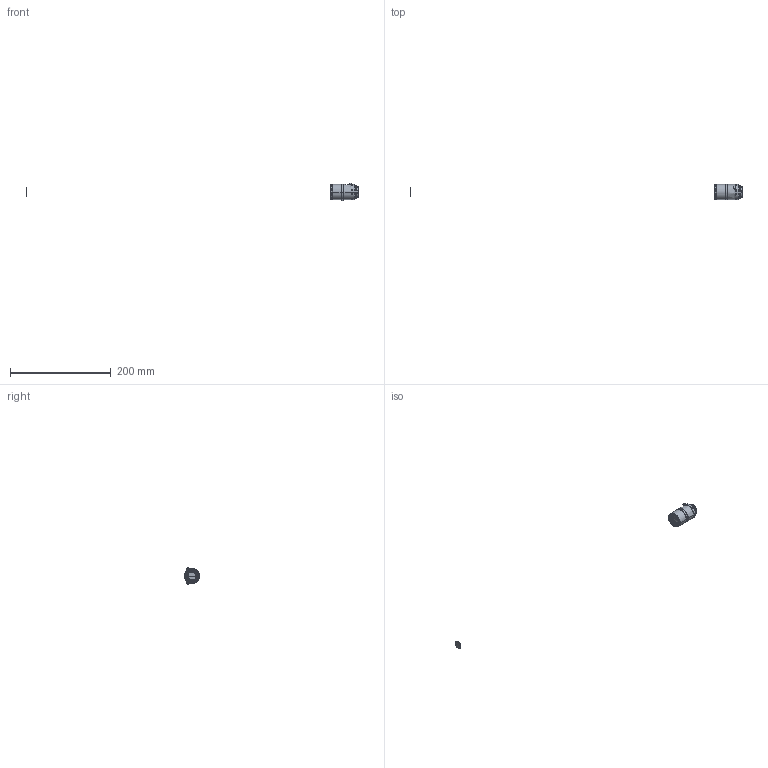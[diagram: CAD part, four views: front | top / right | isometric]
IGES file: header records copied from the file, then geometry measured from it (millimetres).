
Start section: SolidWorks IGES file using analytic representation for surfaces
Global section: file name: \\192.168.1.203\Development\06 俠俠俿倁儗儞僘\02 SV-H series\016 SV-1614H\3D\SV-1614H.IGS; native system: SolidWorks 2012; preprocessor: SolidWorks 2012; author: a-3DCAD2; date: 120601.162947; units: millimetre
Bounding box: 660.73 x 30 x 34.76 mm (x, y, z)
Surface area: 7306.3 mm2 (no closed solid volume)
Topology: 0 solids, 0 shells, 124 faces, 1934 edges, 1932 vertices
Faces by surface type: revolution 106, bspline 18
